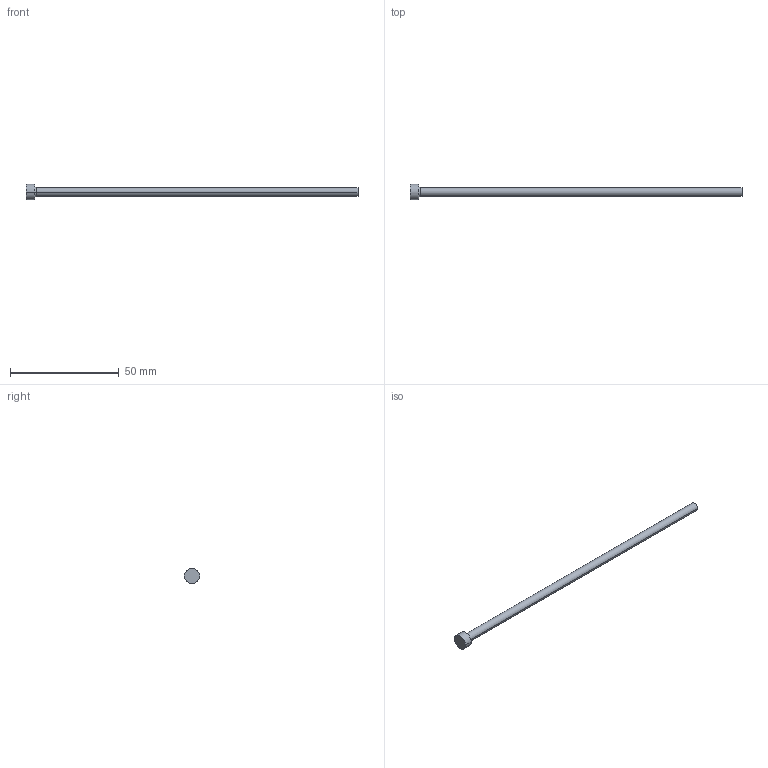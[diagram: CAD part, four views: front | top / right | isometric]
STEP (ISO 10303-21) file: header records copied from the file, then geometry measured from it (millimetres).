
FILE_DESCRIPTION (( 'STEP AP214' ), '1' );
FILE_NAME ('P11-6.STEP', '2020-03-11T17:43:21', ( '' ), ( '' ), 'SwSTEP 2.0', 'SolidWorks 2018', '' );
FILE_SCHEMA (( 'AUTOMOTIVE_DESIGN' ));
Length unit declared in the file: inch
Products named in the file (1): P11-6
Bounding box: 152.4 x 7.14 x 7.14 mm (x, y, z)
Volume: 1989.7 mm3; surface area: 2009.8 mm2
Topology: 1 solids, 1 shells, 13 faces, 24 edges, 14 vertices
Faces by surface type: cone 4, cylinder 4, plane 3, torus 2
Entity records: 366 total; most frequent: DIRECTION 68, CARTESIAN_POINT 52, ORIENTED_EDGE 48, AXIS2_PLACEMENT_3D 30, EDGE_CURVE 24, CIRCLE 16, VERTEX_POINT 14, EDGE_LOOP 14
